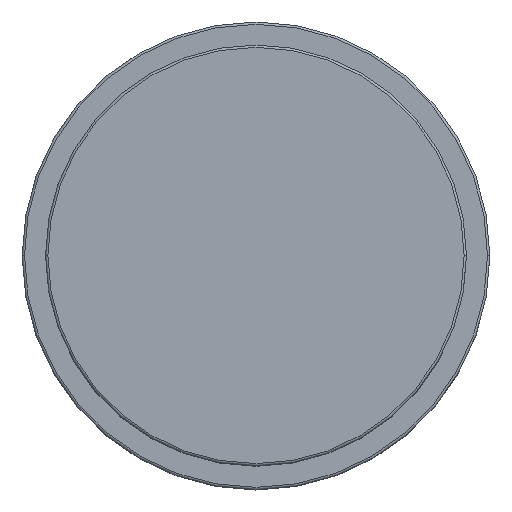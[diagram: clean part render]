
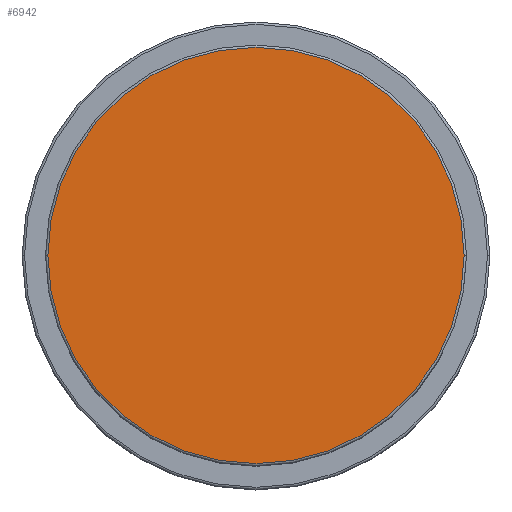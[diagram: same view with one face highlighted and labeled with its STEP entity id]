
A CAD part, top view. The second image highlights one B-rep face of the part: STEP entity #6942.
In plain terms, the highlighted planar face has unit normal (0, 0, 1).
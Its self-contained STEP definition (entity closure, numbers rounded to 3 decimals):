
#16 = CARTESIAN_POINT ( 'NONE',  ( 0., 0., 62. ) ) ;
#176 = CIRCLE ( 'NONE', #4376, 44.5 ) ;
#607 = AXIS2_PLACEMENT_3D ( 'NONE', #16, #1137, #2327 ) ;
#842 = DIRECTION ( 'NONE',  ( 0., 0., 1. ) ) ;
#861 = CIRCLE ( 'NONE', #607, 44.5 ) ;
#1057 = AXIS2_PLACEMENT_3D ( 'NONE', #5798, #6966, #2439 ) ;
#1137 = DIRECTION ( 'NONE',  ( 0., 0., 1. ) ) ;
#1335 = ORIENTED_EDGE ( 'NONE', *, *, #4650, .T. ) ;
#1341 = VERTEX_POINT ( 'NONE', #1459 ) ;
#1459 = CARTESIAN_POINT ( 'NONE',  ( 44.5, 0., 62. ) ) ;
#2141 = CARTESIAN_POINT ( 'NONE',  ( -44.5, 0., 62. ) ) ;
#2327 = DIRECTION ( 'NONE',  ( 1., 0., 0. ) ) ;
#2439 = DIRECTION ( 'NONE',  ( 1., 0., 0. ) ) ;
#3814 = VERTEX_POINT ( 'NONE', #2141 ) ;
#4104 = DIRECTION ( 'NONE',  ( 1., 0., 0. ) ) ;
#4376 = AXIS2_PLACEMENT_3D ( 'NONE', #4678, #842, #4104 ) ;
#4650 = EDGE_CURVE ( 'NONE', #3814, #1341, #176, .T. ) ;
#4678 = CARTESIAN_POINT ( 'NONE',  ( 0., 0., 62. ) ) ;
#4940 = EDGE_LOOP ( 'NONE', ( #6969, #1335 ) ) ;
#5312 = PLANE ( 'NONE',  #1057 ) ;
#5798 = CARTESIAN_POINT ( 'NONE',  ( 0., 0., 62. ) ) ;
#6194 = FACE_OUTER_BOUND ( 'NONE', #4940, .T. ) ;
#6942 = ADVANCED_FACE ( 'NONE', ( #6194 ), #5312, .T. ) ;
#6966 = DIRECTION ( 'NONE',  ( 0., 0., 1. ) ) ;
#6969 = ORIENTED_EDGE ( 'NONE', *, *, #7122, .T. ) ;
#7122 = EDGE_CURVE ( 'NONE', #1341, #3814, #861, .T. ) ;
